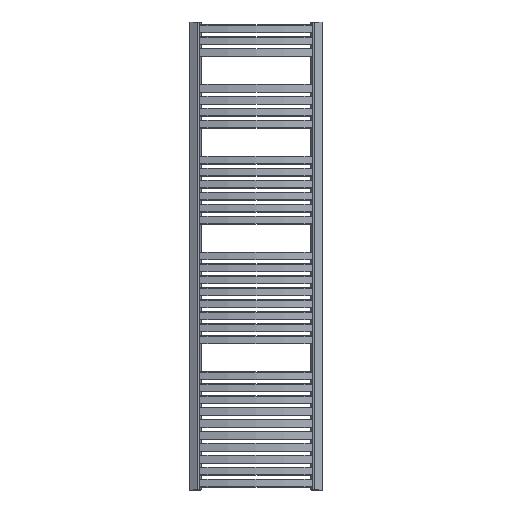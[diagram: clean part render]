
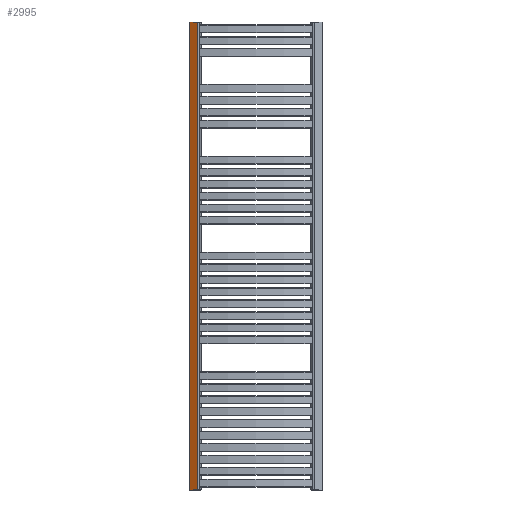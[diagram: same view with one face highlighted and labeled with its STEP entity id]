
A CAD part, front view. The second image highlights one B-rep face of the part: STEP entity #2995.
In plain terms, the highlighted planar face has unit normal (-0.515, -0.857, 0).
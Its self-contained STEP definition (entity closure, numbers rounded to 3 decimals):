
#249=CARTESIAN_POINT('',(-248.242,-5.701,1.5));
#250=VERTEX_POINT('',#249);
#298=CARTESIAN_POINT('',(-218.958,-23.297,1.5));
#299=VERTEX_POINT('',#298);
#307=CARTESIAN_POINT('',(-218.958,-23.297,1.5));
#308=DIRECTION('',(-0.857,0.515,0.0));
#309=VECTOR('',#308,34.164);
#310=LINE('',#307,#309);
#311=EDGE_CURVE('',#299,#250,#310,.T.);
#524=CARTESIAN_POINT('',(-248.242,-5.701,1758.5));
#525=VERTEX_POINT('',#524);
#526=CARTESIAN_POINT('',(-248.242,-5.701,1.5));
#527=DIRECTION('',(0.0,0.0,1.0));
#528=VECTOR('',#527,1757.0);
#529=LINE('',#526,#528);
#530=EDGE_CURVE('',#250,#525,#529,.T.);
#582=CARTESIAN_POINT('',(-218.958,-23.297,1758.5));
#583=VERTEX_POINT('',#582);
#600=CARTESIAN_POINT('',(-248.242,-5.701,1758.5));
#601=DIRECTION('',(0.857,-0.515,0.0));
#602=VECTOR('',#601,34.164);
#603=LINE('',#600,#602);
#604=EDGE_CURVE('',#525,#583,#603,.T.);
#2975=CARTESIAN_POINT('',(-218.958,-23.297,1758.5));
#2976=DIRECTION('',(0.0,0.0,-1.0));
#2977=VECTOR('',#2976,1757.0);
#2978=LINE('',#2975,#2977);
#2979=EDGE_CURVE('',#583,#299,#2978,.T.);
#2984=CARTESIAN_POINT('',(-215.048,-25.646,0.0));
#2985=DIRECTION('',(-0.515,-0.857,0.0));
#2986=DIRECTION('',(0.0,0.0,1.0));
#2987=AXIS2_PLACEMENT_3D('',#2984,#2985,#2986);
#2988=PLANE('',#2987);
#2989=ORIENTED_EDGE('',*,*,#311,.F.);
#2990=ORIENTED_EDGE('',*,*,#2979,.F.);
#2991=ORIENTED_EDGE('',*,*,#604,.F.);
#2992=ORIENTED_EDGE('',*,*,#530,.F.);
#2993=EDGE_LOOP('',(#2989,#2990,#2991,#2992));
#2994=FACE_OUTER_BOUND('',#2993,.T.);
#2995=ADVANCED_FACE('',(#2994),#2988,.T.);
